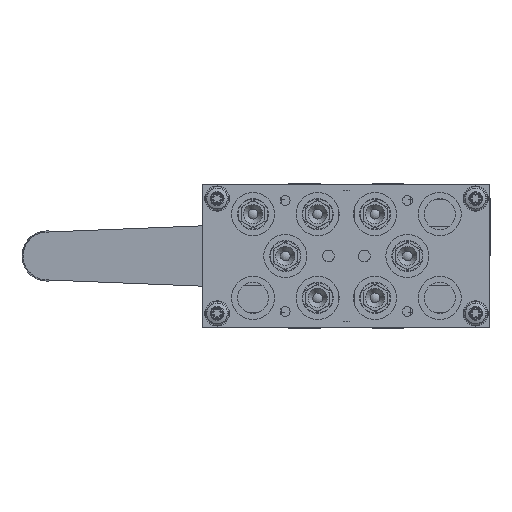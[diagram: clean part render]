
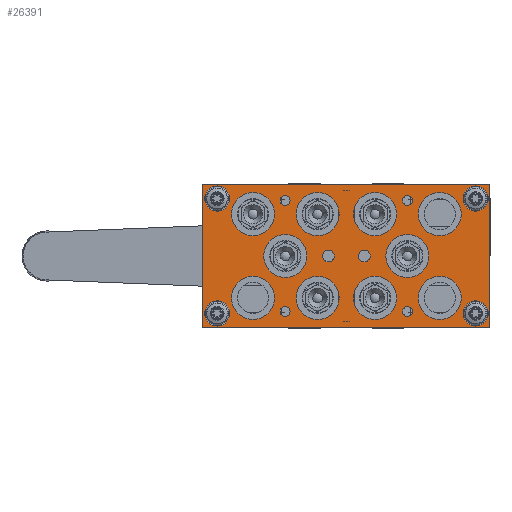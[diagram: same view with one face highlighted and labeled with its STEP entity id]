
A CAD part, left-side view. The second image highlights one B-rep face of the part: STEP entity #26391.
In plain terms, the highlighted planar face has unit normal (-1, 0, 0) as drawn and (0, 0, 1) by its records, which use the part's own axes.
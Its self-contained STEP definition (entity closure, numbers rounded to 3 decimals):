
#2502=LINE('',#63235,#3551);
#2506=LINE('',#63246,#3555);
#2510=LINE('',#63391,#3559);
#2511=LINE('',#63392,#3560);
#3551=VECTOR('',#32742,1000.);
#3555=VECTOR('',#32750,1000.);
#3559=VECTOR('',#32910,1000.);
#3560=VECTOR('',#32911,1000.);
#3979=PLANE('',#28279);
#9117=ORIENTED_EDGE('',*,*,#11907,.F.);
#9118=ORIENTED_EDGE('',*,*,#11908,.F.);
#9119=ORIENTED_EDGE('',*,*,#11909,.F.);
#9120=ORIENTED_EDGE('',*,*,#11910,.F.);
#9121=ORIENTED_EDGE('',*,*,#11911,.F.);
#9122=ORIENTED_EDGE('',*,*,#11912,.F.);
#9123=ORIENTED_EDGE('',*,*,#11913,.T.);
#9124=ORIENTED_EDGE('',*,*,#11914,.T.);
#9125=ORIENTED_EDGE('',*,*,#11915,.T.);
#9126=ORIENTED_EDGE('',*,*,#11916,.T.);
#9127=ORIENTED_EDGE('',*,*,#11917,.T.);
#9128=ORIENTED_EDGE('',*,*,#11918,.T.);
#9129=ORIENTED_EDGE('',*,*,#11919,.T.);
#9130=ORIENTED_EDGE('',*,*,#11849,.T.);
#9131=ORIENTED_EDGE('',*,*,#11920,.T.);
#9132=ORIENTED_EDGE('',*,*,#11854,.T.);
#9133=ORIENTED_EDGE('',*,*,#11921,.T.);
#9134=ORIENTED_EDGE('',*,*,#11922,.T.);
#9135=ORIENTED_EDGE('',*,*,#11923,.T.);
#9136=ORIENTED_EDGE('',*,*,#11924,.T.);
#9137=ORIENTED_EDGE('',*,*,#11925,.T.);
#9138=ORIENTED_EDGE('',*,*,#11926,.T.);
#9139=ORIENTED_EDGE('',*,*,#11927,.T.);
#9140=ORIENTED_EDGE('',*,*,#11928,.T.);
#11849=EDGE_CURVE('',#13562,#13561,#2502,.T.);
#11854=EDGE_CURVE('',#13567,#13566,#2506,.T.);
#11907=EDGE_CURVE('',#13617,#13617,#14451,.T.);
#11908=EDGE_CURVE('',#13618,#13618,#14452,.T.);
#11909=EDGE_CURVE('',#13619,#13619,#14453,.T.);
#11910=EDGE_CURVE('',#13620,#13620,#14454,.T.);
#11911=EDGE_CURVE('',#13621,#13621,#14455,.T.);
#11912=EDGE_CURVE('',#13622,#13622,#14456,.T.);
#11913=EDGE_CURVE('',#13623,#13623,#14457,.T.);
#11914=EDGE_CURVE('',#13624,#13624,#14458,.T.);
#11915=EDGE_CURVE('',#13625,#13625,#14459,.T.);
#11916=EDGE_CURVE('',#13626,#13626,#14460,.T.);
#11917=EDGE_CURVE('',#13627,#13627,#14461,.T.);
#11918=EDGE_CURVE('',#13628,#13628,#14462,.T.);
#11919=EDGE_CURVE('',#13629,#13629,#14463,.T.);
#11920=EDGE_CURVE('',#13561,#13567,#2510,.T.);
#11921=EDGE_CURVE('',#13566,#13562,#2511,.T.);
#11922=EDGE_CURVE('',#13630,#13630,#14464,.T.);
#11923=EDGE_CURVE('',#13631,#13631,#14465,.T.);
#11924=EDGE_CURVE('',#13632,#13632,#14466,.T.);
#11925=EDGE_CURVE('',#13633,#13633,#14467,.T.);
#11926=EDGE_CURVE('',#13634,#13634,#14468,.T.);
#11927=EDGE_CURVE('',#13635,#13635,#14469,.T.);
#11928=EDGE_CURVE('',#13636,#13636,#14470,.T.);
#13561=VERTEX_POINT('',#63234);
#13562=VERTEX_POINT('',#63236);
#13566=VERTEX_POINT('',#63245);
#13567=VERTEX_POINT('',#63247);
#13617=VERTEX_POINT('',#63366);
#13618=VERTEX_POINT('',#63368);
#13619=VERTEX_POINT('',#63370);
#13620=VERTEX_POINT('',#63372);
#13621=VERTEX_POINT('',#63374);
#13622=VERTEX_POINT('',#63376);
#13623=VERTEX_POINT('',#63378);
#13624=VERTEX_POINT('',#63380);
#13625=VERTEX_POINT('',#63382);
#13626=VERTEX_POINT('',#63384);
#13627=VERTEX_POINT('',#63386);
#13628=VERTEX_POINT('',#63388);
#13629=VERTEX_POINT('',#63390);
#13630=VERTEX_POINT('',#63394);
#13631=VERTEX_POINT('',#63396);
#13632=VERTEX_POINT('',#63398);
#13633=VERTEX_POINT('',#63400);
#13634=VERTEX_POINT('',#63402);
#13635=VERTEX_POINT('',#63404);
#13636=VERTEX_POINT('',#63406);
#14451=CIRCLE('',#28280,2.067);
#14452=CIRCLE('',#28281,2.067);
#14453=CIRCLE('',#28282,2.067);
#14454=CIRCLE('',#28283,2.067);
#14455=CIRCLE('',#28284,2.459);
#14456=CIRCLE('',#28285,2.459);
#14457=CIRCLE('',#28286,9.);
#14458=CIRCLE('',#28287,9.);
#14459=CIRCLE('',#28288,9.);
#14460=CIRCLE('',#28289,9.);
#14461=CIRCLE('',#28290,9.);
#14462=CIRCLE('',#28291,5.25);
#14463=CIRCLE('',#28292,5.25);
#14464=CIRCLE('',#28293,5.25);
#14465=CIRCLE('',#28294,9.);
#14466=CIRCLE('',#28295,9.);
#14467=CIRCLE('',#28296,9.);
#14468=CIRCLE('',#28297,9.);
#14469=CIRCLE('',#28298,9.);
#14470=CIRCLE('',#28299,5.25);
#15867=EDGE_LOOP('',(#9117));
#15868=EDGE_LOOP('',(#9118));
#15869=EDGE_LOOP('',(#9119));
#15870=EDGE_LOOP('',(#9120));
#15871=EDGE_LOOP('',(#9121));
#15872=EDGE_LOOP('',(#9122));
#15873=EDGE_LOOP('',(#9123));
#15874=EDGE_LOOP('',(#9124));
#15875=EDGE_LOOP('',(#9125));
#15876=EDGE_LOOP('',(#9126));
#15877=EDGE_LOOP('',(#9127));
#15878=EDGE_LOOP('',(#9128));
#15879=EDGE_LOOP('',(#9129));
#15880=EDGE_LOOP('',(#9130,#9131,#9132,#9133));
#15881=EDGE_LOOP('',(#9134));
#15882=EDGE_LOOP('',(#9135));
#15883=EDGE_LOOP('',(#9136));
#15884=EDGE_LOOP('',(#9137));
#15885=EDGE_LOOP('',(#9138));
#15886=EDGE_LOOP('',(#9139));
#15887=EDGE_LOOP('',(#9140));
#17386=FACE_BOUND('',#15867,.T.);
#17387=FACE_BOUND('',#15868,.T.);
#17388=FACE_BOUND('',#15869,.T.);
#17389=FACE_BOUND('',#15870,.T.);
#17390=FACE_BOUND('',#15871,.T.);
#17391=FACE_BOUND('',#15872,.T.);
#17392=FACE_BOUND('',#15873,.T.);
#17393=FACE_BOUND('',#15874,.T.);
#17394=FACE_BOUND('',#15875,.T.);
#17395=FACE_BOUND('',#15876,.T.);
#17396=FACE_BOUND('',#15877,.T.);
#17397=FACE_BOUND('',#15878,.T.);
#17398=FACE_BOUND('',#15879,.T.);
#17399=FACE_BOUND('',#15880,.T.);
#17400=FACE_BOUND('',#15881,.T.);
#17401=FACE_BOUND('',#15882,.T.);
#17402=FACE_BOUND('',#15883,.T.);
#17403=FACE_BOUND('',#15884,.T.);
#17404=FACE_BOUND('',#15885,.T.);
#17405=FACE_BOUND('',#15886,.T.);
#17406=FACE_BOUND('',#15887,.T.);
#26391=ADVANCED_FACE('',(#17386,#17387,#17388,#17389,#17390,#17391,#17392,
#17393,#17394,#17395,#17396,#17397,#17398,#17399,#17400,#17401,#17402,#17403,
#17404,#17405,#17406),#3979,.T.);
#28279=AXIS2_PLACEMENT_3D('',#63364,#32882,#32883);
#28280=AXIS2_PLACEMENT_3D('',#63365,#32884,#32885);
#28281=AXIS2_PLACEMENT_3D('',#63367,#32886,#32887);
#28282=AXIS2_PLACEMENT_3D('',#63369,#32888,#32889);
#28283=AXIS2_PLACEMENT_3D('',#63371,#32890,#32891);
#28284=AXIS2_PLACEMENT_3D('',#63373,#32892,#32893);
#28285=AXIS2_PLACEMENT_3D('',#63375,#32894,#32895);
#28286=AXIS2_PLACEMENT_3D('',#63377,#32896,#32897);
#28287=AXIS2_PLACEMENT_3D('',#63379,#32898,#32899);
#28288=AXIS2_PLACEMENT_3D('',#63381,#32900,#32901);
#28289=AXIS2_PLACEMENT_3D('',#63383,#32902,#32903);
#28290=AXIS2_PLACEMENT_3D('',#63385,#32904,#32905);
#28291=AXIS2_PLACEMENT_3D('',#63387,#32906,#32907);
#28292=AXIS2_PLACEMENT_3D('',#63389,#32908,#32909);
#28293=AXIS2_PLACEMENT_3D('',#63393,#32912,#32913);
#28294=AXIS2_PLACEMENT_3D('',#63395,#32914,#32915);
#28295=AXIS2_PLACEMENT_3D('',#63397,#32916,#32917);
#28296=AXIS2_PLACEMENT_3D('',#63399,#32918,#32919);
#28297=AXIS2_PLACEMENT_3D('',#63401,#32920,#32921);
#28298=AXIS2_PLACEMENT_3D('',#63403,#32922,#32923);
#28299=AXIS2_PLACEMENT_3D('',#63405,#32924,#32925);
#32742=DIRECTION('',(-1.,0.,0.));
#32750=DIRECTION('',(1.,0.,0.));
#32882=DIRECTION('',(0.,0.,1.));
#32883=DIRECTION('',(1.,0.,0.));
#32884=DIRECTION('',(0.,0.,1.));
#32885=DIRECTION('',(1.,0.,0.));
#32886=DIRECTION('',(0.,0.,1.));
#32887=DIRECTION('',(1.,0.,0.));
#32888=DIRECTION('',(0.,0.,1.));
#32889=DIRECTION('',(1.,0.,0.));
#32890=DIRECTION('',(0.,0.,1.));
#32891=DIRECTION('',(1.,0.,0.));
#32892=DIRECTION('',(0.,0.,1.));
#32893=DIRECTION('',(1.,0.,0.));
#32894=DIRECTION('',(0.,0.,1.));
#32895=DIRECTION('',(1.,0.,0.));
#32896=DIRECTION('',(0.,0.,-1.));
#32897=DIRECTION('',(1.,0.,0.));
#32898=DIRECTION('',(0.,0.,-1.));
#32899=DIRECTION('',(1.,0.,0.));
#32900=DIRECTION('',(0.,0.,-1.));
#32901=DIRECTION('',(1.,0.,0.));
#32902=DIRECTION('',(0.,0.,-1.));
#32903=DIRECTION('',(1.,0.,0.));
#32904=DIRECTION('',(0.,0.,-1.));
#32905=DIRECTION('',(1.,0.,0.));
#32906=DIRECTION('',(0.,0.,-1.));
#32907=DIRECTION('',(1.,0.,0.));
#32908=DIRECTION('',(0.,0.,-1.));
#32909=DIRECTION('',(1.,0.,0.));
#32910=DIRECTION('',(0.,-1.,0.));
#32911=DIRECTION('',(0.,1.,0.));
#32912=DIRECTION('',(0.,0.,-1.));
#32913=DIRECTION('',(1.,0.,0.));
#32914=DIRECTION('',(0.,0.,-1.));
#32915=DIRECTION('',(1.,0.,0.));
#32916=DIRECTION('',(0.,0.,-1.));
#32917=DIRECTION('',(1.,0.,0.));
#32918=DIRECTION('',(0.,0.,-1.));
#32919=DIRECTION('',(1.,0.,0.));
#32920=DIRECTION('',(0.,0.,-1.));
#32921=DIRECTION('',(1.,0.,0.));
#32922=DIRECTION('',(0.,0.,-1.));
#32923=DIRECTION('',(1.,0.,0.));
#32924=DIRECTION('',(0.,0.,-1.));
#32925=DIRECTION('',(1.,0.,0.));
#63234=CARTESIAN_POINT('',(-60.,30.,15.));
#63235=CARTESIAN_POINT('',(60.,30.,15.));
#63236=CARTESIAN_POINT('',(60.,30.,15.));
#63245=CARTESIAN_POINT('',(60.,-30.,15.));
#63246=CARTESIAN_POINT('',(-60.,-30.,15.));
#63247=CARTESIAN_POINT('',(-60.,-30.,15.));
#63364=CARTESIAN_POINT('',(-60.,30.,15.));
#63365=CARTESIAN_POINT('',(25.6,23.2,15.));
#63366=CARTESIAN_POINT('',(27.667,23.2,15.));
#63367=CARTESIAN_POINT('',(-25.6,23.2,15.));
#63368=CARTESIAN_POINT('',(-23.533,23.2,15.));
#63369=CARTESIAN_POINT('',(-25.6,-23.2,15.));
#63370=CARTESIAN_POINT('',(-23.533,-23.2,15.));
#63371=CARTESIAN_POINT('',(25.6,-23.2,15.));
#63372=CARTESIAN_POINT('',(27.667,-23.2,15.));
#63373=CARTESIAN_POINT('',(7.5,0.,15.));
#63374=CARTESIAN_POINT('',(9.959,0.,15.));
#63375=CARTESIAN_POINT('',(-7.5,0.,15.));
#63376=CARTESIAN_POINT('',(-5.041,0.,15.));
#63377=CARTESIAN_POINT('',(25.5,0.,15.));
#63378=CARTESIAN_POINT('',(34.5,0.,15.));
#63379=CARTESIAN_POINT('',(39.,17.5,15.));
#63380=CARTESIAN_POINT('',(48.,17.5,15.));
#63381=CARTESIAN_POINT('',(-39.,-17.5,15.));
#63382=CARTESIAN_POINT('',(-30.,-17.5,15.));
#63383=CARTESIAN_POINT('',(-12.,-17.5,15.));
#63384=CARTESIAN_POINT('',(-3.,-17.5,15.));
#63385=CARTESIAN_POINT('',(12.,17.5,15.));
#63386=CARTESIAN_POINT('',(21.,17.5,15.));
#63387=CARTESIAN_POINT('',(-54.,-24.,15.));
#63388=CARTESIAN_POINT('',(-48.75,-24.,15.));
#63389=CARTESIAN_POINT('',(54.,24.,15.));
#63390=CARTESIAN_POINT('',(59.25,24.,15.));
#63391=CARTESIAN_POINT('',(-60.,30.,15.));
#63392=CARTESIAN_POINT('',(60.,-30.,15.));
#63393=CARTESIAN_POINT('',(54.,-24.,15.));
#63394=CARTESIAN_POINT('',(59.25,-24.,15.));
#63395=CARTESIAN_POINT('',(-12.,17.5,15.));
#63396=CARTESIAN_POINT('',(-3.,17.5,15.));
#63397=CARTESIAN_POINT('',(12.,-17.5,15.));
#63398=CARTESIAN_POINT('',(21.,-17.5,15.));
#63399=CARTESIAN_POINT('',(-39.,17.5,15.));
#63400=CARTESIAN_POINT('',(-30.,17.5,15.));
#63401=CARTESIAN_POINT('',(39.,-17.5,15.));
#63402=CARTESIAN_POINT('',(48.,-17.5,15.));
#63403=CARTESIAN_POINT('',(-25.5,0.,15.));
#63404=CARTESIAN_POINT('',(-16.5,0.,15.));
#63405=CARTESIAN_POINT('',(-54.,24.,15.));
#63406=CARTESIAN_POINT('',(-48.75,24.,15.));
